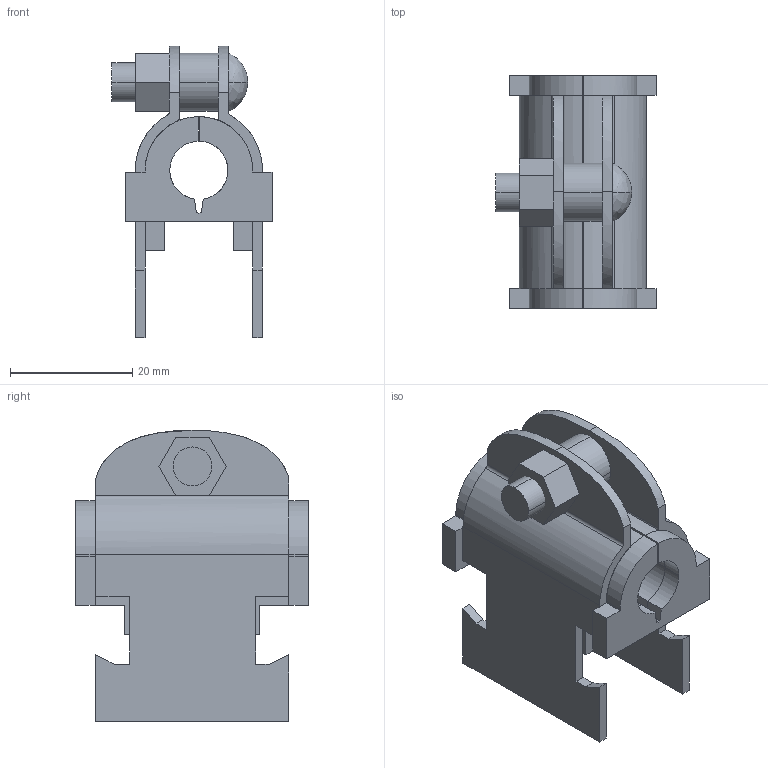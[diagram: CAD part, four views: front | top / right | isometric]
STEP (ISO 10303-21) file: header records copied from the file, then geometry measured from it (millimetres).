
FILE_DESCRIPTION(('TurboCAD Mac Pro'),'Build 980');
FILE_NAME('006T010.stp',' ',(''),(''),'ACIS Interop','IMSI','TurboCAD Mac Pro BY IMSI, INCORPORATED');
FILE_SCHEMA(('automotive_design'));
Length unit declared in the file: inch
Products named in the file (6): 1; 2; 3; 4; 5; 6
Bounding box: 26.22 x 38.1 x 47.75 mm (x, y, z)
Volume: 14590.3 mm3; surface area: 12539.2 mm2
Topology: 6 solids, 6 shells, 150 faces, 395 edges, 258 vertices
Faces by surface type: plane 108, bspline 42
Entity records: 8721 total; most frequent: CARTESIAN_POINT 2035, ORIENTED_EDGE 790, STYLED_ITEM 551, PRESENTATION_STYLE_ASSIGNMENT 551, COLOUR_RGB 551, DIRECTION 523, EDGE_CURVE 395, CURVE_STYLE 395
